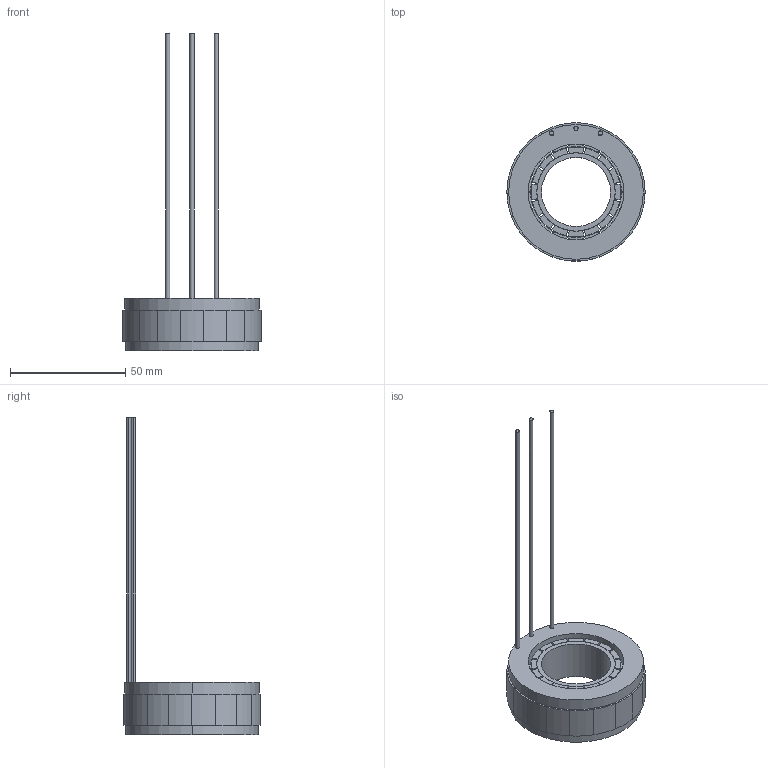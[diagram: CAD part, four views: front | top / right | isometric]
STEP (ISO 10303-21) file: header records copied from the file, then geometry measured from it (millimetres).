
FILE_DESCRIPTION (( 'STEP AP203' ), '1' );
FILE_NAME ('307050048SS（SMR60-1431D16ENL-22）-V02.STEP', '2022-12-08T09:06:59', ( 'muse' ), ( 'muse' ), 'SwSTEP 2.0', 'SolidWorks 2022', '' );
FILE_SCHEMA (( 'CONFIG_CONTROL_DESIGN' ));
Length unit declared in the file: millimetre
Products named in the file (5): 60转子铁芯17.27; 60l17.27磁钢; 线包; 307050048SS（SMR60-1431D16ENL-22）-V02; 60L12.6定子铁芯
Assembly tree (36 placements, depth 2):
  307050048SS（SMR60-1431D16ENL-22）-V02
    60L12.6定子铁芯  x18
    线包
    60转子铁芯17.27
    60l17.27磁钢  x16
Bounding box: 60 x 59.9 x 137.7 mm (x, y, z)
Volume: 34309.6 mm3; surface area: 32754.2 mm2
Topology: 37 solids, 37 shells, 555 faces, 1434 edges, 956 vertices
Faces by surface type: plane 361, cylinder 194
Entity records: 3199 total; most frequent: DIRECTION 380, CARTESIAN_POINT 316, ORIENTED_EDGE 264, AXIS2_PLACEMENT_3D 152, EDGE_CURVE 132, LOCAL_TIME 97, DATE_AND_TIME 97, CALENDAR_DATE 97
